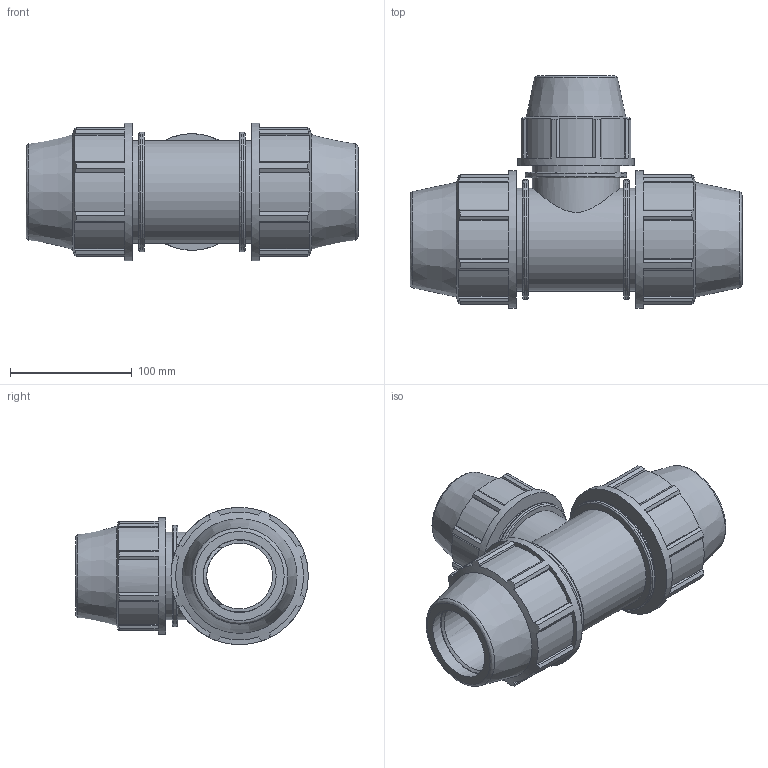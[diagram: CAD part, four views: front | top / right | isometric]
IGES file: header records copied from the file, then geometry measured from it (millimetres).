
Global section: file name: 0734M0020015.ipt; native system: Autodesk Inventor 2019; preprocessor: unknown; author: 12HКирилл; date: 20210826.124812; units: inch
Bounding box: 273.05 x 191.39 x 113.03 mm (x, y, z)
Volume: 1473001.6 mm3; surface area: 208695 mm2
Topology: 1 solids, 1 shells, 201 faces, 575 edges, 388 vertices
Faces by surface type: plane 138, cylinder 37, revolution 20, cone 6
Full cylindrical faces by diameter (mm): 72.009 x2, 83.53 x1, 84.772 x3, 96.012 x1, 98.336 x2, 113.03 x2
